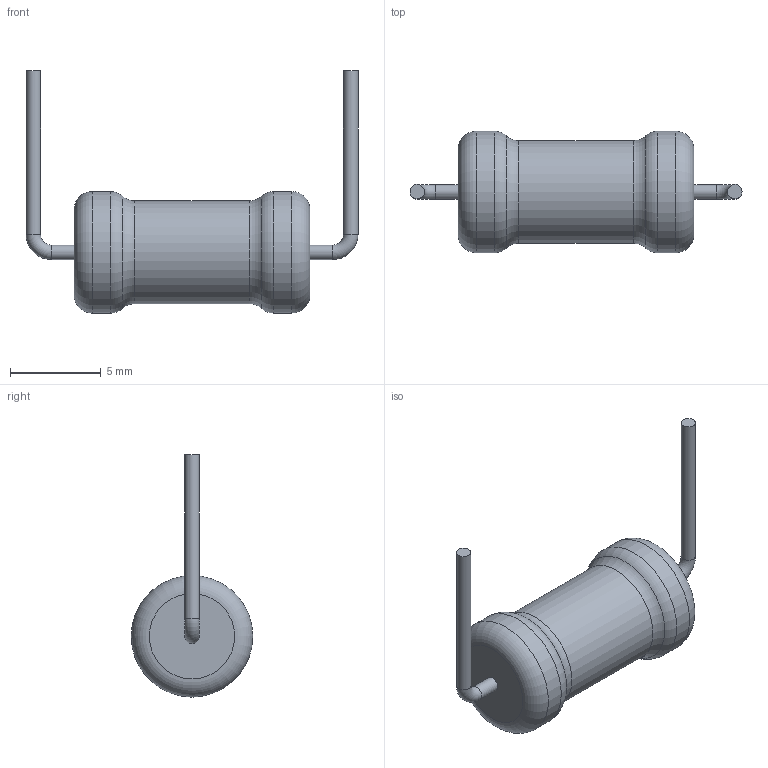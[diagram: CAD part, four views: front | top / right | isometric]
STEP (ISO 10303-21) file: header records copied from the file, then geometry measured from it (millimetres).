
FILE_DESCRIPTION(('STEP AP203'), '1');
FILE_NAME('C2-33-1', '', ('UNSPECIFIED'), ('UNSPECIFIED'), 'ASCON STEP Converter 1.6', 'ASCON Math Kernel', '');
FILE_SCHEMA(('CONFIG_CONTROL_DESIGN'));
Length unit declared in the file: millimetre
Bounding box: 18.3 x 6.7 x 13.35 mm (x, y, z)
Volume: 384.8 mm3; surface area: 364.8 mm2
Topology: 1 solids, 1 shells, 19 faces, 33 edges, 18 vertices
Faces by surface type: torus 8, cylinder 7, plane 4
Full cylindrical faces by diameter (mm): 0.8 x4, 5.668 x1, 6.7 x2
Entity records: 570 total; most frequent: DIRECTION 76, CARTESIAN_POINT 56, AXIS2_PLACEMENT_3D 38, EDGE_LOOP 36, ORIENTED_EDGE 36, FACE_OUTER_BOUND 30, COLOUR_RGB 20, FILL_AREA_STYLE_COLOUR 20
